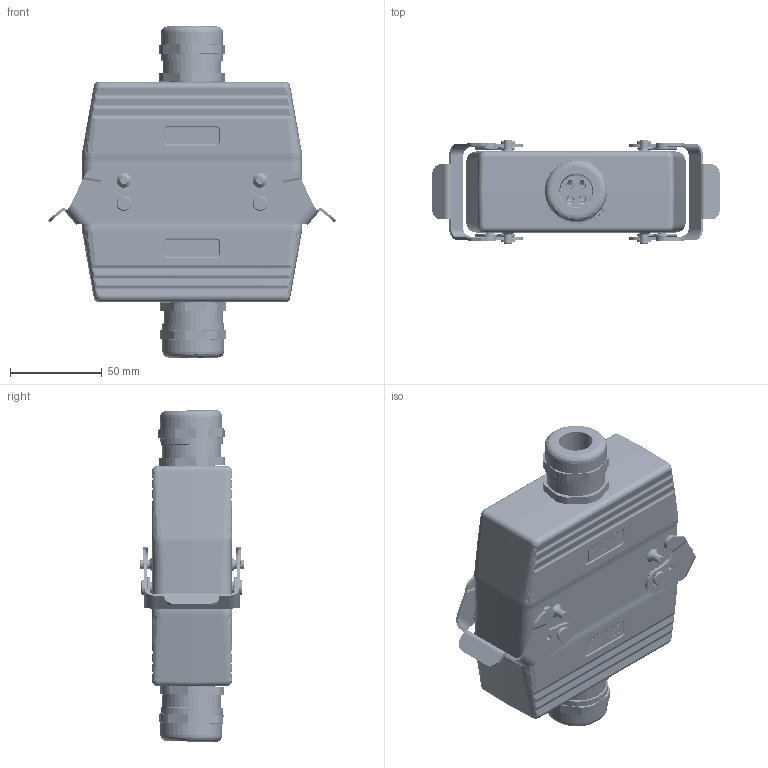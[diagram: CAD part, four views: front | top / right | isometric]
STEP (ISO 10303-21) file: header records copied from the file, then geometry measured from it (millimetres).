
FILE_DESCRIPTION (( 'STEP AP214' ), '1' );
FILE_NAME ('09024109225M HE、24针、对接底座、顶出25套件、配金属接头.STEP', '2024-04-30T09:13:40', ( 'L' ), ( '' ), 'SwSTEP 2.0', 'SolidWorks 2019', '' );
FILE_SCHEMA (( 'AUTOMOTIVE_DESIGN' ));
Length unit declared in the file: millimetre
Products named in the file (6): 09024109225M HE、24针、对接底座、顶出25套件、配金属接头; FAS-25-M.step; H24B-TG-M25.step; HE-024-M.stp; HE-024-F.stp; H24B-TBF-M25.step
Assembly tree (6 placements, depth 2):
  09024109225M HE、24针、对接底座、顶出25套件、配金属接头
    HE-024-M.stp
    HE-024-F.stp
    H24B-TG-M25.step
    FAS-25-M.step  x2
    H24B-TBF-M25.step
Bounding box: 156.49 x 56.4 x 180.46 mm (x, y, z)
Volume: 334395.1 mm3; surface area: 185214.4 mm2
Topology: 6 solids, 6 shells, 7346 faces, 19495 edges, 12248 vertices
Faces by surface type: plane 3453, cylinder 1641, bspline 1478, cone 450, torus 240, sphere 84
Entity records: 315674 total; most frequent: CARTESIAN_POINT 119390, ORIENTED_EDGE 38420, DIRECTION 31427, EDGE_CURVE 19210, VERTEX_POINT 12108, VECTOR 10901, LINE 10901, AXIS2_PLACEMENT_3D 10263
